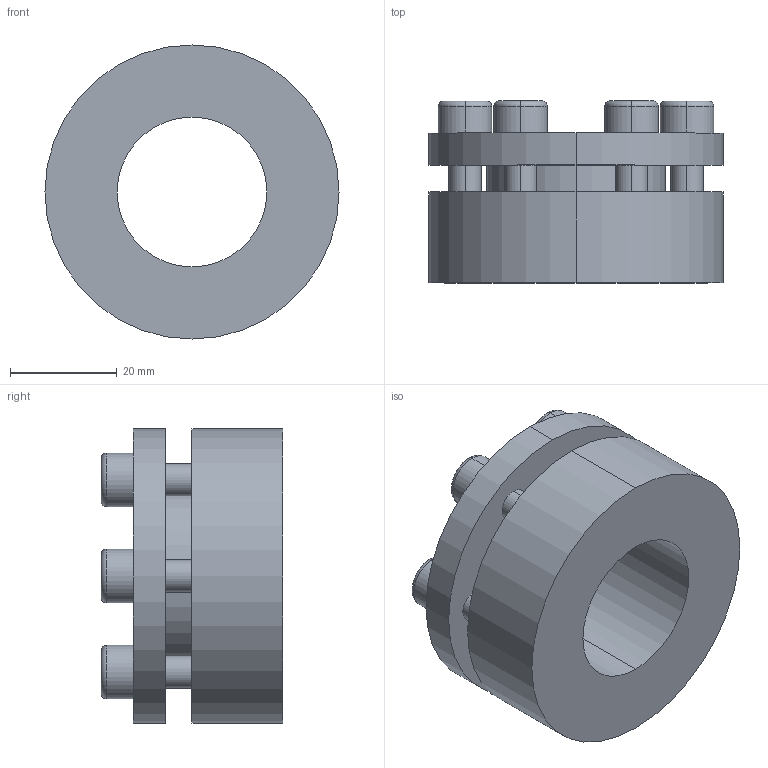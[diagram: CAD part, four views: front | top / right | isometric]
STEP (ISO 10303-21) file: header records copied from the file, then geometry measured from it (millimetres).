
FILE_DESCRIPTION (( 'STEP AP203' ), '1' );
FILE_NAME ('PL-H3 28-55.STEP', '2021-10-23T01:06:45', ( '' ), ( '' ), 'SwSTEP 2.0', 'SolidWorks 2018', '' );
FILE_SCHEMA (( 'CONFIG_CONTROL_DESIGN' ));
Length unit declared in the file: millimetre
Products named in the file (1): PL-H3 28-55
Bounding box: 55 x 34 x 55 mm (x, y, z)
Volume: 45031.1 mm3; surface area: 15066.6 mm2
Topology: 1 solids, 1 shells, 96 faces, 228 edges, 148 vertices
Faces by surface type: plane 52, cylinder 32, torus 12
Entity records: 2889 total; most frequent: DIRECTION 510, CARTESIAN_POINT 473, ORIENTED_EDGE 456, EDGE_CURVE 228, AXIS2_PLACEMENT_3D 185, VERTEX_POINT 148, LINE 140, VECTOR 140
